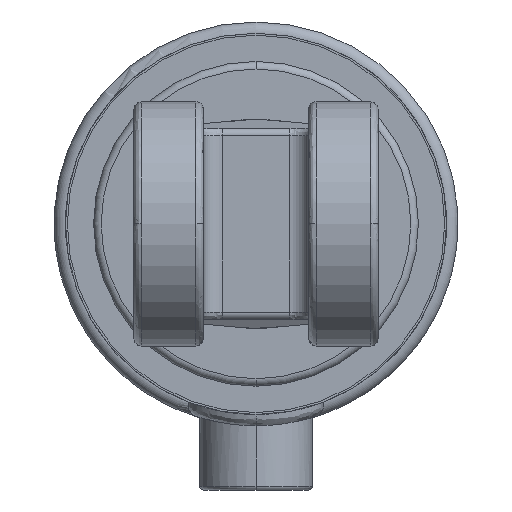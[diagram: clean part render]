
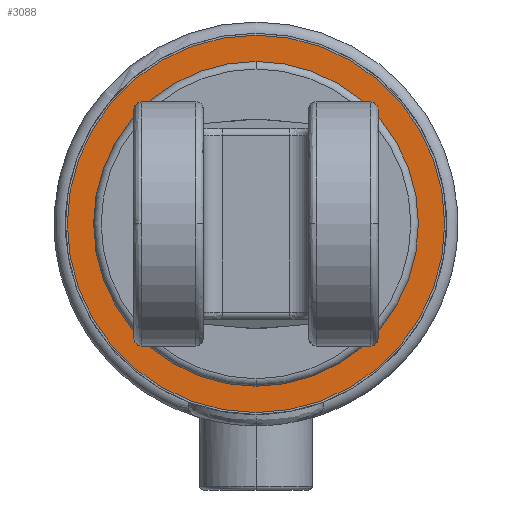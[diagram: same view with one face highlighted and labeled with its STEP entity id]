
A CAD part, left-side view. The second image highlights one B-rep face of the part: STEP entity #3088.
In plain terms, the highlighted planar face has unit normal (-1, 0, 0).
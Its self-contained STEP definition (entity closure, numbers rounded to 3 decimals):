
#617 = CARTESIAN_POINT ( 'NONE',  ( -418.005, 0., 0. ) ) ;
#804 = CARTESIAN_POINT ( 'NONE',  ( -418.005, 0., -50.2 ) ) ;
#911 = AXIS2_PLACEMENT_3D ( 'NONE', #9096, #3816, #9980 ) ;
#914 = ORIENTED_EDGE ( 'NONE', *, *, #9958, .F. ) ;
#1148 = AXIS2_PLACEMENT_3D ( 'NONE', #617, #6778, #1509 ) ;
#1493 = VERTEX_POINT ( 'NONE', #4543 ) ;
#1509 = DIRECTION ( 'NONE',  ( 0., 0., 1. ) ) ;
#1553 = EDGE_LOOP ( 'NONE', ( #4903, #914 ) ) ;
#1893 = ORIENTED_EDGE ( 'NONE', *, *, #7529, .T. ) ;
#2282 = VERTEX_POINT ( 'NONE', #4529 ) ;
#2579 = DIRECTION ( 'NONE',  ( -1., 0., 0. ) ) ;
#2805 = DIRECTION ( 'NONE',  ( -1., 0., 0. ) ) ;
#3088 = ADVANCED_FACE ( 'NONE', ( #6796, #9136 ), #9580, .T. ) ;
#3503 = CARTESIAN_POINT ( 'NONE',  ( -418.005, 0., 0. ) ) ;
#3684 = EDGE_LOOP ( 'NONE', ( #3929, #1893 ) ) ;
#3816 = DIRECTION ( 'NONE',  ( -1., 0., 0. ) ) ;
#3929 = ORIENTED_EDGE ( 'NONE', *, *, #5111, .T. ) ;
#4177 = CIRCLE ( 'NONE', #911, 50.2 ) ;
#4400 = DIRECTION ( 'NONE',  ( 0., 0., 1. ) ) ;
#4529 = CARTESIAN_POINT ( 'NONE',  ( -418.005, 0., -43.2 ) ) ;
#4543 = CARTESIAN_POINT ( 'NONE',  ( -418.005, 0., -50.2 ) ) ;
#4591 = AXIS2_PLACEMENT_3D ( 'NONE', #804, #2579, #8736 ) ;
#4903 = ORIENTED_EDGE ( 'NONE', *, *, #5039, .F. ) ;
#5039 = EDGE_CURVE ( 'NONE', #10374, #2282, #8870, .T. ) ;
#5111 = EDGE_CURVE ( 'NONE', #8648, #1493, #4177, .T. ) ;
#5133 = CIRCLE ( 'NONE', #1148, 43.2 ) ;
#6778 = DIRECTION ( 'NONE',  ( -1., 0., 0. ) ) ;
#6796 = FACE_OUTER_BOUND ( 'NONE', #3684, .T. ) ;
#6798 = CIRCLE ( 'NONE', #8000, 50.2 ) ;
#7529 = EDGE_CURVE ( 'NONE', #1493, #8648, #6798, .T. ) ;
#7636 = AXIS2_PLACEMENT_3D ( 'NONE', #8104, #2805, #8979 ) ;
#8000 = AXIS2_PLACEMENT_3D ( 'NONE', #3503, #9669, #4400 ) ;
#8104 = CARTESIAN_POINT ( 'NONE',  ( -418.005, 0., 0. ) ) ;
#8648 = VERTEX_POINT ( 'NONE', #9173 ) ;
#8736 = DIRECTION ( 'NONE',  ( 0., 0., 1. ) ) ;
#8870 = CIRCLE ( 'NONE', #7636, 43.2 ) ;
#8979 = DIRECTION ( 'NONE',  ( 0., 0., 1. ) ) ;
#9096 = CARTESIAN_POINT ( 'NONE',  ( -418.005, 0., 0. ) ) ;
#9136 = FACE_BOUND ( 'NONE', #1553, .T. ) ;
#9173 = CARTESIAN_POINT ( 'NONE',  ( -418.005, 0., 50.2 ) ) ;
#9580 = PLANE ( 'NONE',  #4591 ) ;
#9669 = DIRECTION ( 'NONE',  ( -1., 0., 0. ) ) ;
#9958 = EDGE_CURVE ( 'NONE', #2282, #10374, #5133, .T. ) ;
#9980 = DIRECTION ( 'NONE',  ( 0., 0., 1. ) ) ;
#10374 = VERTEX_POINT ( 'NONE', #11054 ) ;
#11054 = CARTESIAN_POINT ( 'NONE',  ( -418.005, 0., 43.2 ) ) ;
